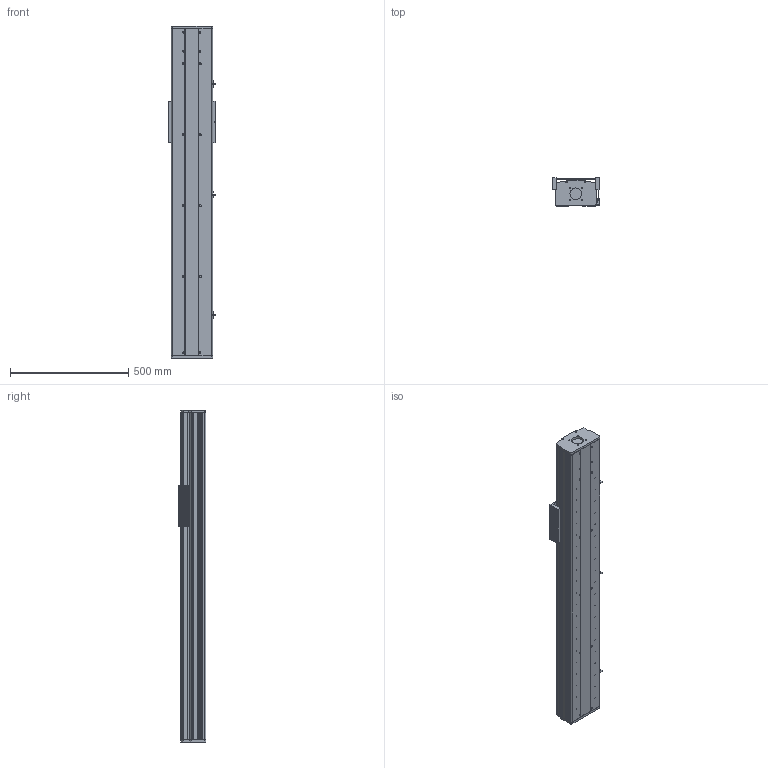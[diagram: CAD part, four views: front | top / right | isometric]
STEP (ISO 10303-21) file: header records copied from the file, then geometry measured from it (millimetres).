
FILE_DESCRIPTION (( 'STEP AP203' ), '1' );
FILE_NAME ('CF175B-C-1050-FW.STEP', '2020-07-15T01:56:21', ( 'Micorosoft' ), ( 'Micorosoft' ), 'SwSTEP 2.0', 'SolidWorks 2016', '' );
FILE_SCHEMA (( 'CONFIG_CONTROL_DESIGN' ));
Length unit declared in the file: millimetre
Products named in the file (12): EGR20絳寢-1050; CF175-2賑雄啣; 75-86-95癹弇羲壽覜茼え; CF-EGH20CA賑輸; 175-2耜啣; 175B珨极嘐隅釱; 175-2盓傅釱; 嫖萇羲壽; CF175-2蹟譫釱; CF175B-C-1050-FW; 175B裔啣-1050; 175B臏倰第-1050
Assembly tree (17 placements, depth 2):
  CF175B-C-1050-FW
    175-2耜啣
    175-2盓傅釱
    CF175-2蹟譫釱
    175B裔啣-1050
    175B臏倰第-1050
    EGR20絳寢-1050  x2
    CF175-2賑雄啣
    75-86-95癹弇羲壽覜茼え
    CF-EGH20CA賑輸  x4
    175B珨极嘐隅釱
    嫖萇羲壽  x3
Bounding box: 201.1 x 116.8 x 1405 mm (x, y, z)
Volume: 10300469.8 mm3; surface area: 2755273.3 mm2
Topology: 23 solids, 23 shells, 1479 faces, 3834 edges, 2548 vertices
Faces by surface type: plane 741, cylinder 732, cone 4, bspline 2
Entity records: 35448 total; most frequent: DIRECTION 6151, CARTESIAN_POINT 5978, ORIENTED_EDGE 5608, EDGE_CURVE 2804, AXIS2_PLACEMENT_3D 2277, VERTEX_POINT 1864, LINE 1597, VECTOR 1597
